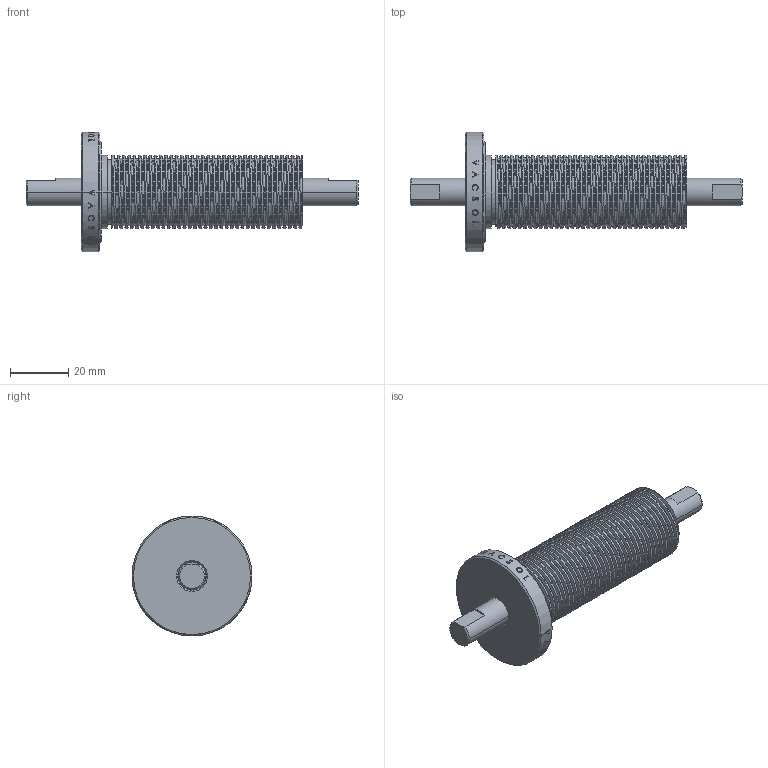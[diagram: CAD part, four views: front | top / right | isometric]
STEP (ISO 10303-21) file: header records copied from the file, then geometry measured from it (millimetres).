
FILE_DESCRIPTION (( 'STEP AP203' ), '1' );
FILE_NAME ('P62072.STEP', '2010-10-11T11:04:15', ( 'user' ), ( '' ), 'SwSTEP 2.0', 'SolidWorks 2007', '' );
FILE_SCHEMA (( 'CONFIG_CONTROL_DESIGN' ));
Length unit declared in the file: millimetre
Products named in the file (1): P62072
Bounding box: 114.3 x 41.27 x 41.27 mm (x, y, z)
Volume: 44093.8 mm3; surface area: 15415.1 mm2
Topology: 2 solids, 2 shells, 407 faces, 1106 edges, 732 vertices
Faces by surface type: cylinder 191, bspline 179, plane 19, cone 14, torus 4
Entity records: 27058 total; most frequent: CARTESIAN_POINT 19134, ORIENTED_EDGE 2212, EDGE_CURVE 1106, DIRECTION 797, VERTEX_POINT 732, B_SPLINE_CURVE_WITH_KNOTS 547, EDGE_LOOP 438, FACE_OUTER_BOUND 407
